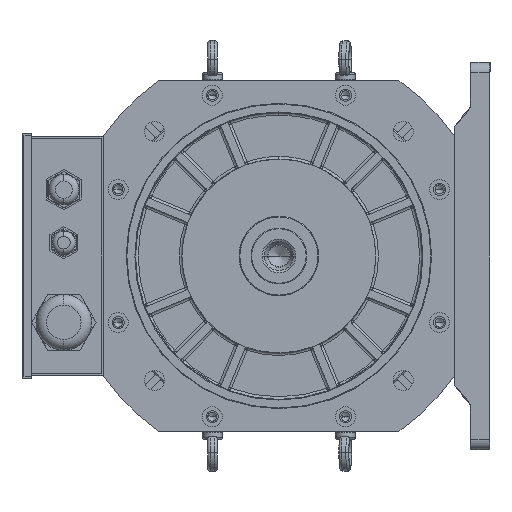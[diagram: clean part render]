
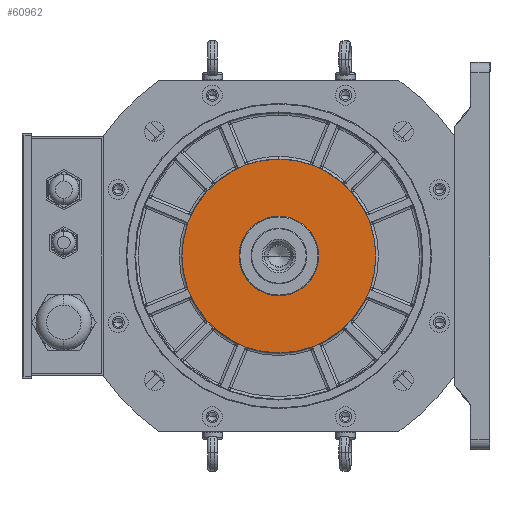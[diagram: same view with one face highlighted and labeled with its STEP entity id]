
A CAD part, left-side view. The second image highlights one B-rep face of the part: STEP entity #60962.
In plain terms, the highlighted planar face has unit normal (-1, 0, 0).
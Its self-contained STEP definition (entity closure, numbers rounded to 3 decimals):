
#167 = CARTESIAN_POINT ( 'NONE',  ( 6., 0., -30. ) ) ;
#1595 = CARTESIAN_POINT ( 'NONE',  ( 6., 0., 30. ) ) ;
#5246 = DIRECTION ( 'NONE',  ( 0., 0., 1. ) ) ;
#7211 = DIRECTION ( 'NONE',  ( -1., 0., 0. ) ) ;
#10631 = DIRECTION ( 'NONE',  ( 0., 0., 1. ) ) ;
#10971 = AXIS2_PLACEMENT_3D ( 'NONE', #63807, #39532, #10631 ) ;
#12236 = CIRCLE ( 'NONE', #10971, 30. ) ;
#12896 = CARTESIAN_POINT ( 'NONE',  ( 6., 0., 0. ) ) ;
#16478 = FACE_BOUND ( 'NONE', #72061, .T. ) ;
#16869 = PLANE ( 'NONE',  #60673 ) ;
#20859 = DIRECTION ( 'NONE',  ( -1., 0., 0. ) ) ;
#22737 = EDGE_CURVE ( 'NONE', #46152, #30243, #24714, .T. ) ;
#24502 = EDGE_CURVE ( 'NONE', #30243, #46152, #12236, .T. ) ;
#24714 = CIRCLE ( 'NONE', #38526, 30. ) ;
#28948 = DIRECTION ( 'NONE',  ( -1., 0., 0. ) ) ;
#29695 = CARTESIAN_POINT ( 'NONE',  ( 6., 0., 0. ) ) ;
#30243 = VERTEX_POINT ( 'NONE', #167 ) ;
#36430 = EDGE_CURVE ( 'NONE', #54093, #54057, #43551, .T. ) ;
#37351 = CARTESIAN_POINT ( 'NONE',  ( 6., 0., -73. ) ) ;
#38526 = AXIS2_PLACEMENT_3D ( 'NONE', #12896, #7211, #59386 ) ;
#39391 = DIRECTION ( 'NONE',  ( 0., 0., 1. ) ) ;
#39532 = DIRECTION ( 'NONE',  ( -1., 0., 0. ) ) ;
#39557 = DIRECTION ( 'NONE',  ( 0., 0., 1. ) ) ;
#40691 = CARTESIAN_POINT ( 'NONE',  ( 6., 0., 73. ) ) ;
#43551 = CIRCLE ( 'NONE', #65770, 73. ) ;
#43945 = CIRCLE ( 'NONE', #75151, 73. ) ;
#46152 = VERTEX_POINT ( 'NONE', #1595 ) ;
#53427 = EDGE_LOOP ( 'NONE', ( #58248, #71773 ) ) ;
#54057 = VERTEX_POINT ( 'NONE', #40691 ) ;
#54093 = VERTEX_POINT ( 'NONE', #37351 ) ;
#56290 = ORIENTED_EDGE ( 'NONE', *, *, #24502, .F. ) ;
#56785 = EDGE_CURVE ( 'NONE', #54057, #54093, #43945, .T. ) ;
#56939 = DIRECTION ( 'NONE',  ( -1., 0., 0. ) ) ;
#58248 = ORIENTED_EDGE ( 'NONE', *, *, #56785, .T. ) ;
#59386 = DIRECTION ( 'NONE',  ( 0., 0., 1. ) ) ;
#60673 = AXIS2_PLACEMENT_3D ( 'NONE', #75388, #56939, #39557 ) ;
#60962 = ADVANCED_FACE ( 'NONE', ( #61457, #16478 ), #16869, .T. ) ;
#61457 = FACE_OUTER_BOUND ( 'NONE', #53427, .T. ) ;
#62004 = ORIENTED_EDGE ( 'NONE', *, *, #22737, .F. ) ;
#63807 = CARTESIAN_POINT ( 'NONE',  ( 6., 0., 0. ) ) ;
#65770 = AXIS2_PLACEMENT_3D ( 'NONE', #29695, #28948, #5246 ) ;
#71773 = ORIENTED_EDGE ( 'NONE', *, *, #36430, .T. ) ;
#72061 = EDGE_LOOP ( 'NONE', ( #62004, #56290 ) ) ;
#74462 = CARTESIAN_POINT ( 'NONE',  ( 6., 0., 0. ) ) ;
#75151 = AXIS2_PLACEMENT_3D ( 'NONE', #74462, #20859, #39391 ) ;
#75388 = CARTESIAN_POINT ( 'NONE',  ( 6., -73., 0. ) ) ;
